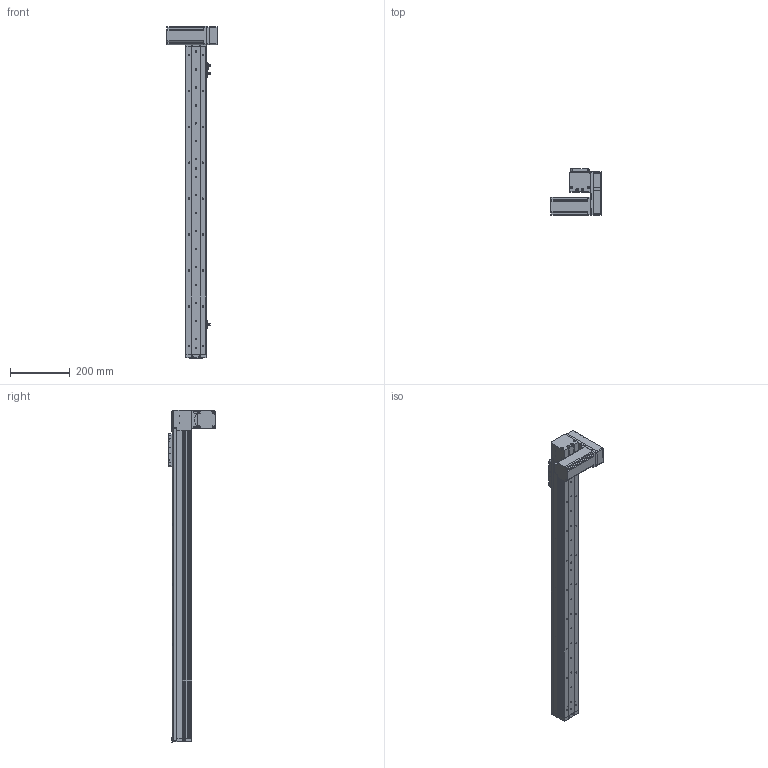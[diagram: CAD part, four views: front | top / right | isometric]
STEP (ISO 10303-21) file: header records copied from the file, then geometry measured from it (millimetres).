
FILE_DESCRIPTION (( 'STEP AP214' ), '1' );
FILE_NAME ('KSD68BS-S850-MLD-CR.STEP', '2019-11-07T05:38:40', ( '微软用户' ), ( '微软中国' ), 'SwSTEP 2.0', 'SolidWorks 2014', '' );
FILE_SCHEMA (( 'AUTOMOTIVE_DESIGN' ));
Length unit declared in the file: millimetre
Products named in the file (14): 68宽单导轨全封闭丝杆传动安装板1防护罩; KSD68BS 850行程侧板全封闭; 68宽单导轨全封闭同步带端板; 68单导轨全封闭同步带电机座左; 68单导轨全封闭同步带安装板; 悵誘欶奻狟殏; 68宽马达安装板连板上折同步带; 感应片68宽全封闭; U倰嫖萇EEㄜSX672; KSD68BS 850行程盖板全封闭; 台达ECMA－C20604AS伺服电机（400W); KSD68BS 850行程底板全封闭; KSD68BS-S850-MLD-CR; 68遵裔啣揤啣1
Assembly tree (17 placements, depth 2):
  KSD68BS-S850-MLD-CR
    KSD68BS 850行程底板全封闭
    台达ECMA－C20604AS伺服电机（400W)
    U倰嫖萇EEㄜSX672  x3
    感应片68宽全封闭
    68宽马达安装板连板上折同步带
    悵誘欶奻狟殏
    68单导轨全封闭同步带安装板
    68单导轨全封闭同步带电机座左
    68宽单导轨全封闭同步带端板
    KSD68BS 850行程侧板全封闭  x2
    68宽单导轨全封闭丝杆传动安装板1防护罩
    68遵裔啣揤啣1  x2
    KSD68BS 850行程盖板全封闭
Bounding box: 167.2 x 155.5 x 1108.1 mm (x, y, z)
Volume: 2334412 mm3; surface area: 876563.2 mm2
Topology: 18 solids, 18 shells, 1473 faces, 4183 edges, 2680 vertices
Faces by surface type: cylinder 692, plane 625, cone 156
Entity records: 46643 total; most frequent: CARTESIAN_POINT 7985, DIRECTION 7000, ORIENTED_EDGE 6702, EDGE_CURVE 3351, AXIS2_PLACEMENT_3D 2519, VERTEX_POINT 2198, VECTOR 1962, LINE 1962
